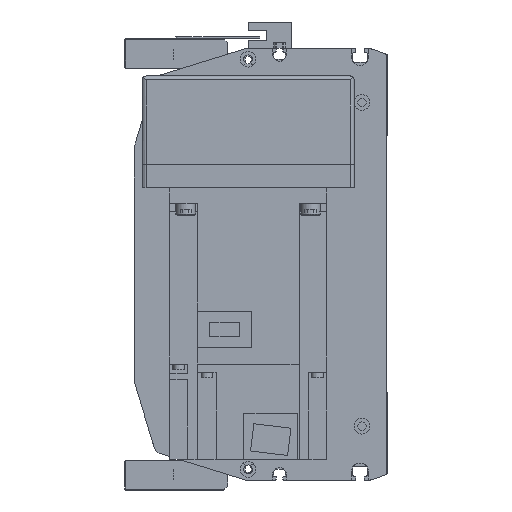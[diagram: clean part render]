
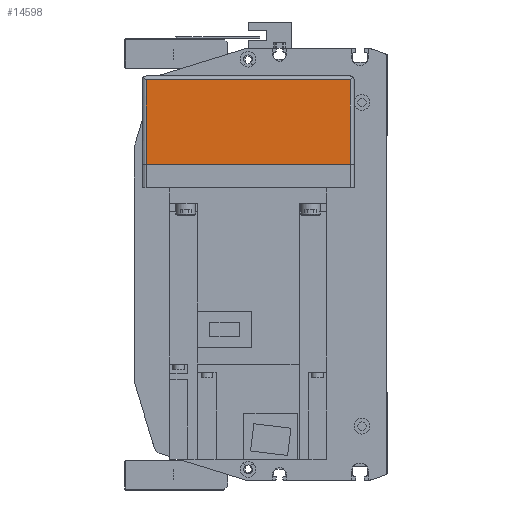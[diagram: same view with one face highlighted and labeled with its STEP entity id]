
A CAD part, left-side view. The second image highlights one B-rep face of the part: STEP entity #14598.
In plain terms, the highlighted planar face has unit normal (-1, 0, 0).
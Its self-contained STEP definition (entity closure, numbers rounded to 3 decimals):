
#2480=ORIENTED_EDGE('',*,*,#5948,.T.);
#2481=ORIENTED_EDGE('',*,*,#5876,.T.);
#2482=ORIENTED_EDGE('',*,*,#5949,.F.);
#2483=ORIENTED_EDGE('',*,*,#5888,.F.);
#5876=EDGE_CURVE('',#7756,#7759,#9270,.T.);
#5888=EDGE_CURVE('',#7766,#7768,#9275,.T.);
#5948=EDGE_CURVE('',#7766,#7756,#9317,.T.);
#5949=EDGE_CURVE('',#7768,#7759,#9318,.T.);
#7756=VERTEX_POINT('',#22693);
#7759=VERTEX_POINT('',#22699);
#7766=VERTEX_POINT('',#22722);
#7768=VERTEX_POINT('',#22725);
#9270=LINE('',#22700,#10617);
#9275=LINE('',#22724,#10622);
#9317=LINE('',#22848,#10664);
#9318=LINE('',#22849,#10665);
#10617=VECTOR('',#18127,1000.);
#10622=VECTOR('',#18154,1000.);
#10664=VECTOR('',#18274,1000.);
#10665=VECTOR('',#18275,1000.);
#11821=EDGE_LOOP('',(#2480,#2481,#2482,#2483));
#12976=FACE_BOUND('',#11821,.T.);
#13969=PLANE('',#15675);
#14598=ADVANCED_FACE('',(#12976),#13969,.T.);
#15675=AXIS2_PLACEMENT_3D('',#22847,#18272,#18273);
#18127=DIRECTION('',(0.,0.,1.));
#18154=DIRECTION('',(0.,0.,1.));
#18272=DIRECTION('',(-1.,0.,0.));
#18273=DIRECTION('',(0.,0.,1.));
#18274=DIRECTION('',(0.,-1.,0.));
#18275=DIRECTION('',(0.,-1.,0.));
#22693=CARTESIAN_POINT('',(-230.,-52.,-55.));
#22699=CARTESIAN_POINT('',(-230.,-52.,-12.));
#22700=CARTESIAN_POINT('',(-230.,-52.,-57.));
#22722=CARTESIAN_POINT('',(-230.,52.,-55.));
#22724=CARTESIAN_POINT('',(-230.,52.,-57.));
#22725=CARTESIAN_POINT('',(-230.,52.,-12.));
#22847=CARTESIAN_POINT('',(-230.,52.,-57.));
#22848=CARTESIAN_POINT('',(-230.,54.,-55.));
#22849=CARTESIAN_POINT('',(-230.,52.,-12.));
